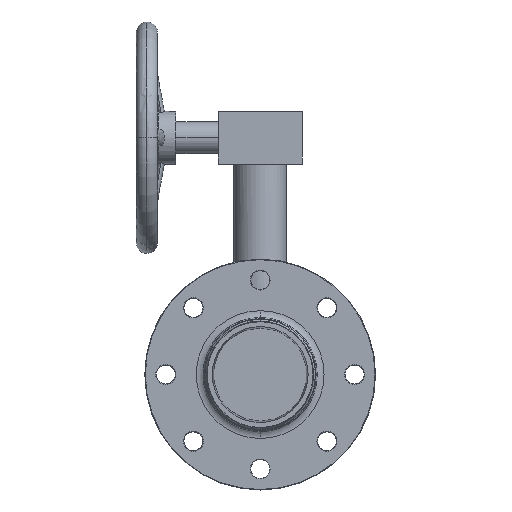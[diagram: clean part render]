
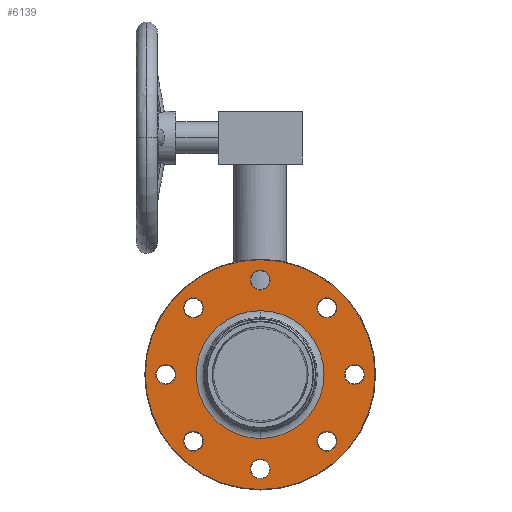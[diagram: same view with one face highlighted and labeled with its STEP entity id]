
A CAD part, front view. The second image highlights one B-rep face of the part: STEP entity #6139.
In plain terms, the highlighted planar face has unit normal (0, -1, 0).
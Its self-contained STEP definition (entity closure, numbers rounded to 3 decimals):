
#1096=CARTESIAN_POINT('',(0.,-59.983,0.));
#1097=DIRECTION('',(0.,-1.,0.));
#1098=DIRECTION('',(0.,0.,1.));
#1099=AXIS2_PLACEMENT_3D('',#1096,#1097,#1098);
#1104=CARTESIAN_POINT('',(0.,-59.983,0.));
#1105=DIRECTION('',(0.,-1.,0.));
#1106=DIRECTION('',(0.,0.,-1.));
#1107=AXIS2_PLACEMENT_3D('',#1104,#1105,#1106);
#1112=CARTESIAN_POINT('',(-89.734,-59.983,0.));
#1113=DIRECTION('',(0.,1.,0.));
#1114=DIRECTION('',(0.,0.,1.));
#1115=AXIS2_PLACEMENT_3D('',#1112,#1113,#1114);
#1120=CARTESIAN_POINT('',(-89.734,-59.983,0.));
#1121=DIRECTION('',(0.,1.,0.));
#1122=DIRECTION('',(0.,0.,-1.));
#1123=AXIS2_PLACEMENT_3D('',#1120,#1121,#1122);
#1128=CARTESIAN_POINT('',(-63.452,-59.983,
63.452));
#1129=DIRECTION('',(0.,1.,0.));
#1130=DIRECTION('',(0.,0.,1.));
#1131=AXIS2_PLACEMENT_3D('',#1128,#1129,#1130);
#1136=CARTESIAN_POINT('',(-63.452,-59.983,
63.452));
#1137=DIRECTION('',(0.,1.,0.));
#1138=DIRECTION('',(0.,0.,-1.));
#1139=AXIS2_PLACEMENT_3D('',#1136,#1137,#1138);
#1144=CARTESIAN_POINT('',(0.,-59.983,
89.734));
#1145=DIRECTION('',(0.,1.,0.));
#1146=DIRECTION('',(0.,0.,1.));
#1147=AXIS2_PLACEMENT_3D('',#1144,#1145,#1146);
#1152=CARTESIAN_POINT('',(0.,-59.983,
89.734));
#1153=DIRECTION('',(0.,1.,0.));
#1154=DIRECTION('',(0.,0.,-1.));
#1155=AXIS2_PLACEMENT_3D('',#1152,#1153,#1154);
#1160=CARTESIAN_POINT('',(63.452,-59.983,63.452));
#1161=DIRECTION('',(0.,1.,0.));
#1162=DIRECTION('',(0.,0.,1.));
#1163=AXIS2_PLACEMENT_3D('',#1160,#1161,#1162);
#1168=CARTESIAN_POINT('',(63.452,-59.983,63.452));
#1169=DIRECTION('',(0.,1.,0.));
#1170=DIRECTION('',(0.,0.,-1.));
#1171=AXIS2_PLACEMENT_3D('',#1168,#1169,#1170);
#1176=CARTESIAN_POINT('',(89.734,-59.983,
0.));
#1177=DIRECTION('',(0.,1.,0.));
#1178=DIRECTION('',(0.,0.,1.));
#1179=AXIS2_PLACEMENT_3D('',#1176,#1177,#1178);
#1184=CARTESIAN_POINT('',(89.734,-59.983,
0.));
#1185=DIRECTION('',(0.,1.,0.));
#1186=DIRECTION('',(0.,0.,-1.));
#1187=AXIS2_PLACEMENT_3D('',#1184,#1185,#1186);
#1192=CARTESIAN_POINT('',(63.452,-59.983,
-63.452));
#1193=DIRECTION('',(0.,1.,0.));
#1194=DIRECTION('',(0.,0.,1.));
#1195=AXIS2_PLACEMENT_3D('',#1192,#1193,#1194);
#1200=CARTESIAN_POINT('',(63.452,-59.983,
-63.452));
#1201=DIRECTION('',(0.,1.,0.));
#1202=DIRECTION('',(0.,0.,-1.));
#1203=AXIS2_PLACEMENT_3D('',#1200,#1201,#1202);
#1208=CARTESIAN_POINT('',(0.,-59.983,
-89.734));
#1209=DIRECTION('',(0.,1.,0.));
#1210=DIRECTION('',(0.,0.,1.));
#1211=AXIS2_PLACEMENT_3D('',#1208,#1209,#1210);
#1216=CARTESIAN_POINT('',(0.,-59.983,
-89.734));
#1217=DIRECTION('',(0.,1.,0.));
#1218=DIRECTION('',(0.,0.,-1.));
#1219=AXIS2_PLACEMENT_3D('',#1216,#1217,#1218);
#1224=CARTESIAN_POINT('',(-63.452,-59.983,
-63.452));
#1225=DIRECTION('',(0.,1.,0.));
#1226=DIRECTION('',(0.,0.,1.));
#1227=AXIS2_PLACEMENT_3D('',#1224,#1225,#1226);
#1232=CARTESIAN_POINT('',(-63.452,-59.983,
-63.452));
#1233=DIRECTION('',(0.,1.,0.));
#1234=DIRECTION('',(0.,0.,-1.));
#1235=AXIS2_PLACEMENT_3D('',#1232,#1233,#1234);
#1240=CARTESIAN_POINT('',(0.,-59.983,0.));
#1241=DIRECTION('',(0.,1.,0.));
#1242=DIRECTION('',(0.,0.,1.));
#1243=AXIS2_PLACEMENT_3D('',#1240,#1241,#1242);
#1248=CARTESIAN_POINT('',(0.,-59.983,0.));
#1249=DIRECTION('',(0.,1.,0.));
#1250=DIRECTION('',(0.,0.,-1.));
#1251=AXIS2_PLACEMENT_3D('',#1248,#1249,#1250);
#5125=CARTESIAN_POINT('',(0.,-59.983,
60.72));
#5126=CARTESIAN_POINT('',(0.,-59.983,
-60.72));
#5127=VERTEX_POINT('',#5125);
#5128=VERTEX_POINT('',#5126);
#5129=CARTESIAN_POINT('',(0.,-59.983,
109.176));
#5130=CARTESIAN_POINT('',(0.,-59.983,
-109.176));
#5131=VERTEX_POINT('',#5129);
#5132=VERTEX_POINT('',#5130);
#5133=CARTESIAN_POINT('',(-89.734,-59.983,9.472));
#5134=CARTESIAN_POINT('',(-89.734,-59.983,-9.472));
#5135=VERTEX_POINT('',#5133);
#5136=VERTEX_POINT('',#5134);
#5137=CARTESIAN_POINT('',(-63.452,-59.983,
72.923));
#5138=CARTESIAN_POINT('',(-63.452,-59.983,
53.98));
#5139=VERTEX_POINT('',#5137);
#5140=VERTEX_POINT('',#5138);
#5141=CARTESIAN_POINT('',(0.,-59.983,
99.206));
#5142=CARTESIAN_POINT('',(0.,-59.983,
80.262));
#5143=VERTEX_POINT('',#5141);
#5144=VERTEX_POINT('',#5142);
#5145=CARTESIAN_POINT('',(63.452,-59.983,72.923));
#5146=CARTESIAN_POINT('',(63.452,-59.983,53.98));
#5147=VERTEX_POINT('',#5145);
#5148=VERTEX_POINT('',#5146);
#5149=CARTESIAN_POINT('',(89.734,-59.983,9.472));
#5150=CARTESIAN_POINT('',(89.734,-59.983,-9.472));
#5151=VERTEX_POINT('',#5149);
#5152=VERTEX_POINT('',#5150);
#5153=CARTESIAN_POINT('',(63.452,-59.983,
-53.98));
#5154=CARTESIAN_POINT('',(63.452,-59.983,
-72.923));
#5155=VERTEX_POINT('',#5153);
#5156=VERTEX_POINT('',#5154);
#5157=CARTESIAN_POINT('',(0.,-59.983,
-80.262));
#5158=CARTESIAN_POINT('',(0.,-59.983,
-99.206));
#5159=VERTEX_POINT('',#5157);
#5160=VERTEX_POINT('',#5158);
#5161=CARTESIAN_POINT('',(-63.452,-59.983,
-53.98));
#5162=CARTESIAN_POINT('',(-63.452,-59.983,
-72.923));
#5163=VERTEX_POINT('',#5161);
#5164=VERTEX_POINT('',#5162);
#6075=CARTESIAN_POINT('',(-60.72,-59.983,0.));
#6076=DIRECTION('',(0.,-1.,0.));
#6077=DIRECTION('',(0.,0.,-1.));
#6078=AXIS2_PLACEMENT_3D('',#6075,#6076,#6077);
#6079=PLANE('',#6078);
#6081=ORIENTED_EDGE('',*,*,#6080,.F.);
#6082=ORIENTED_EDGE('',*,*,#6065,.F.);
#6083=EDGE_LOOP('',(#6081,#6082));
#6084=FACE_OUTER_BOUND('',#6083,.F.);
#6086=ORIENTED_EDGE('',*,*,#6085,.F.);
#6088=ORIENTED_EDGE('',*,*,#6087,.F.);
#6089=EDGE_LOOP('',(#6086,#6088));
#6090=FACE_BOUND('',#6089,.F.);
#6092=ORIENTED_EDGE('',*,*,#6091,.F.);
#6094=ORIENTED_EDGE('',*,*,#6093,.F.);
#6095=EDGE_LOOP('',(#6092,#6094));
#6096=FACE_BOUND('',#6095,.F.);
#6098=ORIENTED_EDGE('',*,*,#6097,.F.);
#6100=ORIENTED_EDGE('',*,*,#6099,.F.);
#6101=EDGE_LOOP('',(#6098,#6100));
#6102=FACE_BOUND('',#6101,.F.);
#6104=ORIENTED_EDGE('',*,*,#6103,.F.);
#6106=ORIENTED_EDGE('',*,*,#6105,.F.);
#6107=EDGE_LOOP('',(#6104,#6106));
#6108=FACE_BOUND('',#6107,.F.);
#6110=ORIENTED_EDGE('',*,*,#6109,.F.);
#6112=ORIENTED_EDGE('',*,*,#6111,.F.);
#6113=EDGE_LOOP('',(#6110,#6112));
#6114=FACE_BOUND('',#6113,.F.);
#6116=ORIENTED_EDGE('',*,*,#6115,.F.);
#6118=ORIENTED_EDGE('',*,*,#6117,.F.);
#6119=EDGE_LOOP('',(#6116,#6118));
#6120=FACE_BOUND('',#6119,.F.);
#6122=ORIENTED_EDGE('',*,*,#6121,.F.);
#6124=ORIENTED_EDGE('',*,*,#6123,.F.);
#6125=EDGE_LOOP('',(#6122,#6124));
#6126=FACE_BOUND('',#6125,.F.);
#6128=ORIENTED_EDGE('',*,*,#6127,.F.);
#6130=ORIENTED_EDGE('',*,*,#6129,.F.);
#6131=EDGE_LOOP('',(#6128,#6130));
#6132=FACE_BOUND('',#6131,.F.);
#6134=ORIENTED_EDGE('',*,*,#6133,.F.);
#6136=ORIENTED_EDGE('',*,*,#6135,.F.);
#6137=EDGE_LOOP('',(#6134,#6136));
#6138=FACE_BOUND('',#6137,.F.);
#1100=CIRCLE('',#1099,109.176);
#1108=CIRCLE('',#1107,109.176);
#1116=CIRCLE('',#1115,9.472);
#1124=CIRCLE('',#1123,9.472);
#1132=CIRCLE('',#1131,9.472);
#1140=CIRCLE('',#1139,9.472);
#1148=CIRCLE('',#1147,9.472);
#1156=CIRCLE('',#1155,9.472);
#1164=CIRCLE('',#1163,9.472);
#1172=CIRCLE('',#1171,9.472);
#1180=CIRCLE('',#1179,9.472);
#1188=CIRCLE('',#1187,9.472);
#1196=CIRCLE('',#1195,9.472);
#1204=CIRCLE('',#1203,9.472);
#1212=CIRCLE('',#1211,9.472);
#1220=CIRCLE('',#1219,9.472);
#1228=CIRCLE('',#1227,9.472);
#1236=CIRCLE('',#1235,9.472);
#1244=CIRCLE('',#1243,60.72);
#1252=CIRCLE('',#1251,60.72);
#6065=EDGE_CURVE('',#5132,#5131,#1108,.T.);
#6080=EDGE_CURVE('',#5131,#5132,#1100,.T.);
#6085=EDGE_CURVE('',#5135,#5136,#1116,.T.);
#6087=EDGE_CURVE('',#5136,#5135,#1124,.T.);
#6091=EDGE_CURVE('',#5139,#5140,#1132,.T.);
#6093=EDGE_CURVE('',#5140,#5139,#1140,.T.);
#6097=EDGE_CURVE('',#5143,#5144,#1148,.T.);
#6099=EDGE_CURVE('',#5144,#5143,#1156,.T.);
#6103=EDGE_CURVE('',#5147,#5148,#1164,.T.);
#6105=EDGE_CURVE('',#5148,#5147,#1172,.T.);
#6109=EDGE_CURVE('',#5151,#5152,#1180,.T.);
#6111=EDGE_CURVE('',#5152,#5151,#1188,.T.);
#6115=EDGE_CURVE('',#5155,#5156,#1196,.T.);
#6117=EDGE_CURVE('',#5156,#5155,#1204,.T.);
#6121=EDGE_CURVE('',#5159,#5160,#1212,.T.);
#6123=EDGE_CURVE('',#5160,#5159,#1220,.T.);
#6127=EDGE_CURVE('',#5163,#5164,#1228,.T.);
#6129=EDGE_CURVE('',#5164,#5163,#1236,.T.);
#6133=EDGE_CURVE('',#5127,#5128,#1244,.T.);
#6135=EDGE_CURVE('',#5128,#5127,#1252,.T.);
#6139=ADVANCED_FACE('',(#6084,#6090,#6096,#6102,#6108,#6114,#6120,#6126,#6132,
#6138),#6079,.T.);
